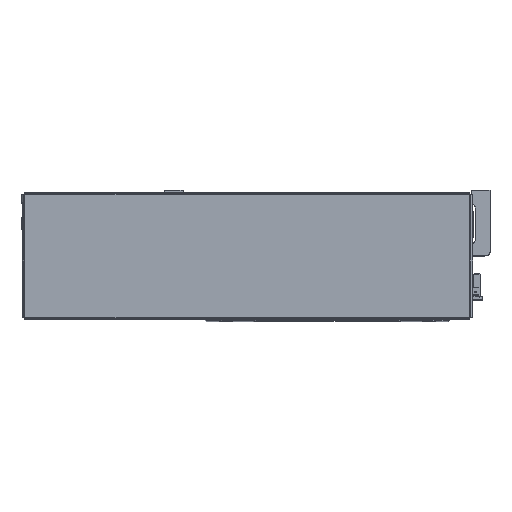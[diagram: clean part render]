
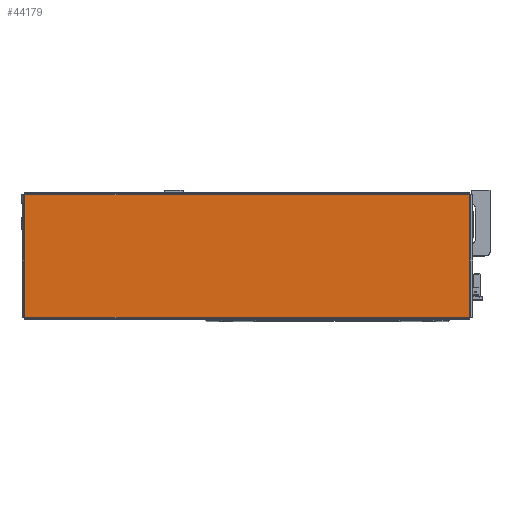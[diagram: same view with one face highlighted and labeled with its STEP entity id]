
A CAD part, top view. The second image highlights one B-rep face of the part: STEP entity #44179.
In plain terms, the highlighted planar face has unit normal (0, 0, 1) as drawn and (0, -1, 0) by its records, which use the part's own axes.
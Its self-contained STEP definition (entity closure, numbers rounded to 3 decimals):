
#1642 = EDGE_CURVE ( 'NONE', #29856, #29851, #13864, .T. ) ;
#1664 = EDGE_CURVE ( 'NONE', #29859, #29873, #13901, .T. ) ;
#1679 = EDGE_CURVE ( 'NONE', #29873, #29856, #13918, .T. ) ;
#1688 = EDGE_CURVE ( 'NONE', #29851, #29859, #13933, .T. ) ;
#5971 = CARTESIAN_POINT ( 'NONE',  ( -154.013, -1.2, -42.263 ) ) ;
#5973 = CARTESIAN_POINT ( 'NONE',  ( -154.013, -1.2, 42.263 ) ) ;
#5997 = CARTESIAN_POINT ( 'NONE',  ( 154.013, -1.2, -42.263 ) ) ;
#5999 = CARTESIAN_POINT ( 'NONE',  ( 154.013, -1.2, 42.263 ) ) ;
#9113 = FACE_OUTER_BOUND ( 'NONE', #32160, .T. ) ;
#13864 = LINE ( 'NONE', #25718, #13868 ) ;
#13868 = VECTOR ( 'NONE', #25729, 1000. ) ;
#13901 = LINE ( 'NONE', #25723, #13924 ) ;
#13912 = VECTOR ( 'NONE', #24236, 1000. ) ;
#13918 = LINE ( 'NONE', #24273, #13912 ) ;
#13924 = VECTOR ( 'NONE', #25714, 1000. ) ;
#13928 = VECTOR ( 'NONE', #24240, 1000. ) ;
#13933 = LINE ( 'NONE', #24265, #13928 ) ;
#20352 = AXIS2_PLACEMENT_3D ( 'NONE', #28151, #28153, #28110 ) ;
#24236 = DIRECTION ( 'NONE',  ( 0., 0., 1. ) ) ;
#24240 = DIRECTION ( 'NONE',  ( 0., 0., -1. ) ) ;
#24265 = CARTESIAN_POINT ( 'NONE',  ( -154.013, -1.2, 42.293 ) ) ;
#24273 = CARTESIAN_POINT ( 'NONE',  ( 154.013, -1.2, -42.293 ) ) ;
#25714 = DIRECTION ( 'NONE',  ( 1., 0., 0. ) ) ;
#25718 = CARTESIAN_POINT ( 'NONE',  ( 154.043, -1.2, 42.263 ) ) ;
#25723 = CARTESIAN_POINT ( 'NONE',  ( -154.043, -1.2, -42.263 ) ) ;
#25729 = DIRECTION ( 'NONE',  ( -1., 0., 0. ) ) ;
#28110 = DIRECTION ( 'NONE',  ( 0., 0., 1. ) ) ;
#28143 = PLANE ( 'NONE',  #20352 ) ;
#28151 = CARTESIAN_POINT ( 'NONE',  ( 0., -1.2, 0. ) ) ;
#28153 = DIRECTION ( 'NONE',  ( 0., 1., 0. ) ) ;
#29327 = ORIENTED_EDGE ( 'NONE', *, *, #1664, .T. ) ;
#29377 = ORIENTED_EDGE ( 'NONE', *, *, #1688, .T. ) ;
#29382 = ORIENTED_EDGE ( 'NONE', *, *, #1679, .T. ) ;
#29851 = VERTEX_POINT ( 'NONE', #5973 ) ;
#29856 = VERTEX_POINT ( 'NONE', #5999 ) ;
#29859 = VERTEX_POINT ( 'NONE', #5971 ) ;
#29873 = VERTEX_POINT ( 'NONE', #5997 ) ;
#32160 = EDGE_LOOP ( 'NONE', ( #29382, #39894, #29377, #29327 ) ) ;
#39894 = ORIENTED_EDGE ( 'NONE', *, *, #1642, .T. ) ;
#44179 = ADVANCED_FACE ( 'NONE', ( #9113 ), #28143, .F. ) ;
